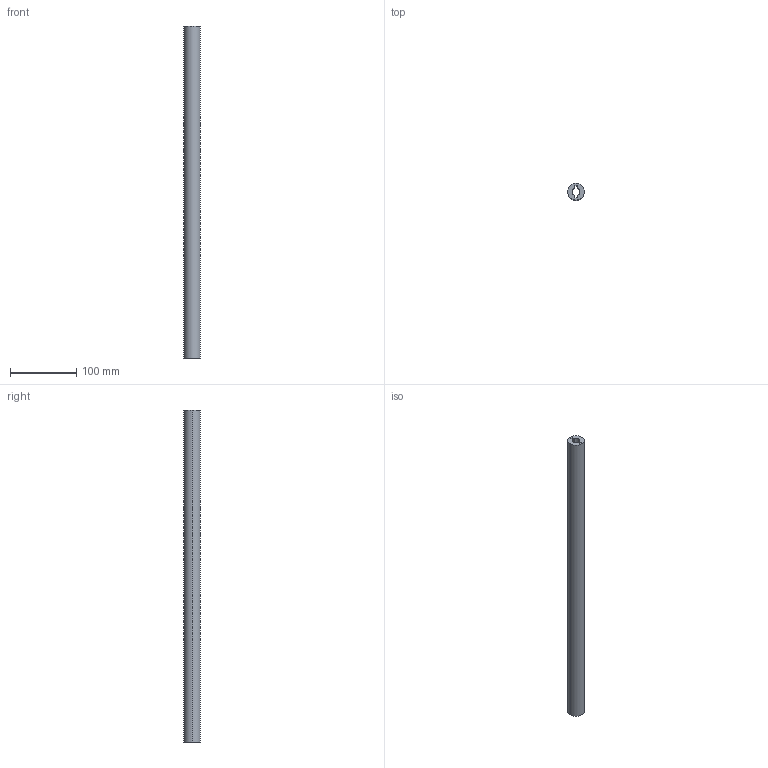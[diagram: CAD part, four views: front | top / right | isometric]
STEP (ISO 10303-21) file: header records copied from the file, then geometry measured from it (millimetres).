
FILE_DESCRIPTION (( 'STEP AP214' ), '1' );
FILE_NAME ('FGFX 3.step', '2017-04-05T08:04:47', ( '' ), ( '' ), 'SwSTEP 2.0', 'SolidWorks 2015', '' );
FILE_SCHEMA (( 'AUTOMOTIVE_DESIGN' ));
Length unit declared in the file: millimetre
Products named in the file (1): FGFX 3
Bounding box: 25 x 25 x 500 mm (x, y, z)
Volume: 175075.9 mm3; surface area: 65957.6 mm2
Topology: 1 solids, 1 shells, 13 faces, 33 edges, 22 vertices
Faces by surface type: plane 8, cylinder 5
Entity records: 435 total; most frequent: DIRECTION 71, CARTESIAN_POINT 69, ORIENTED_EDGE 66, EDGE_CURVE 33, AXIS2_PLACEMENT_3D 24, LINE 23, VECTOR 23, VERTEX_POINT 22
